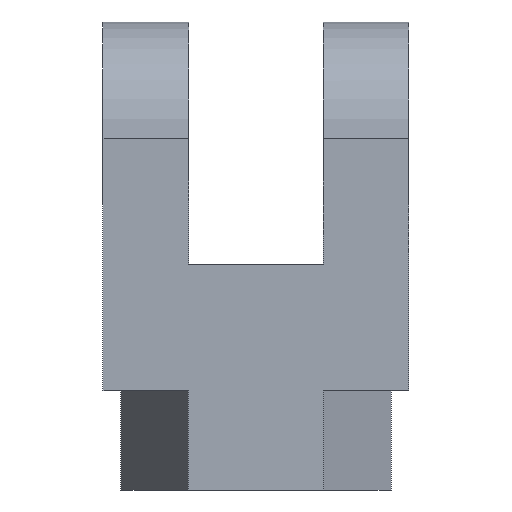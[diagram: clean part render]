
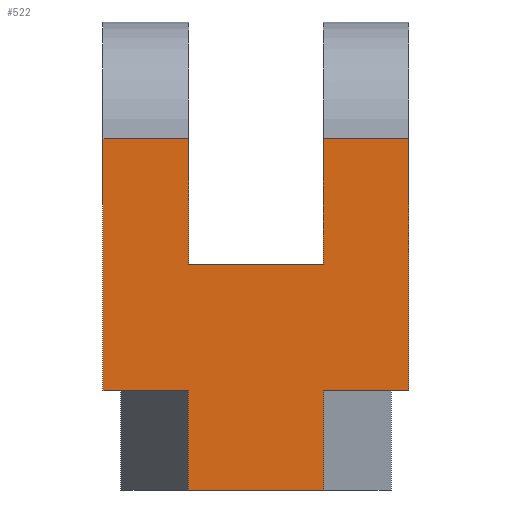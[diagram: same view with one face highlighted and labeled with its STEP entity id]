
A CAD part, left-side view. The second image highlights one B-rep face of the part: STEP entity #522.
In plain terms, the highlighted planar face has unit normal (-1, 0, 0).
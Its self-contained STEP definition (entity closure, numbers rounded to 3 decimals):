
#30=LINE('',#693,#70);
#43=LINE('',#718,#83);
#44=LINE('',#726,#84);
#45=LINE('',#730,#85);
#46=LINE('',#733,#86);
#47=LINE('',#734,#87);
#48=LINE('',#735,#88);
#49=LINE('',#737,#89);
#50=LINE('',#739,#90);
#51=LINE('',#741,#91);
#52=LINE('',#743,#92);
#53=LINE('',#744,#93);
#70=VECTOR('',#586,1000.);
#83=VECTOR('',#603,1000.);
#84=VECTOR('',#612,1000.);
#85=VECTOR('',#617,1000.);
#86=VECTOR('',#618,1000.);
#87=VECTOR('',#619,1000.);
#88=VECTOR('',#620,1000.);
#89=VECTOR('',#621,1000.);
#90=VECTOR('',#622,1000.);
#91=VECTOR('',#623,1000.);
#92=VECTOR('',#624,1000.);
#93=VECTOR('',#625,1000.);
#134=ORIENTED_EDGE('',*,*,#232,.T.);
#135=ORIENTED_EDGE('',*,*,#233,.T.);
#136=ORIENTED_EDGE('',*,*,#226,.F.);
#137=ORIENTED_EDGE('',*,*,#234,.T.);
#138=ORIENTED_EDGE('',*,*,#213,.T.);
#139=ORIENTED_EDGE('',*,*,#235,.F.);
#140=ORIENTED_EDGE('',*,*,#236,.F.);
#141=ORIENTED_EDGE('',*,*,#237,.T.);
#142=ORIENTED_EDGE('',*,*,#238,.T.);
#143=ORIENTED_EDGE('',*,*,#239,.F.);
#144=ORIENTED_EDGE('',*,*,#230,.F.);
#145=ORIENTED_EDGE('',*,*,#240,.T.);
#213=EDGE_CURVE('',#265,#264,#30,.T.);
#226=EDGE_CURVE('',#275,#276,#43,.T.);
#230=EDGE_CURVE('',#277,#278,#44,.T.);
#232=EDGE_CURVE('',#279,#280,#45,.T.);
#233=EDGE_CURVE('',#280,#276,#46,.T.);
#234=EDGE_CURVE('',#275,#265,#47,.T.);
#235=EDGE_CURVE('',#281,#264,#48,.T.);
#236=EDGE_CURVE('',#282,#281,#49,.T.);
#237=EDGE_CURVE('',#282,#283,#50,.T.);
#238=EDGE_CURVE('',#283,#284,#51,.T.);
#239=EDGE_CURVE('',#278,#284,#52,.T.);
#240=EDGE_CURVE('',#277,#279,#53,.T.);
#264=VERTEX_POINT('',#692);
#265=VERTEX_POINT('',#694);
#275=VERTEX_POINT('',#719);
#276=VERTEX_POINT('',#720);
#277=VERTEX_POINT('',#725);
#278=VERTEX_POINT('',#727);
#279=VERTEX_POINT('',#731);
#280=VERTEX_POINT('',#732);
#281=VERTEX_POINT('',#736);
#282=VERTEX_POINT('',#738);
#283=VERTEX_POINT('',#740);
#284=VERTEX_POINT('',#742);
#309=EDGE_LOOP('',(#134,#135,#136,#137,#138,#139,#140,#141,#142,#143,#144,
#145));
#337=FACE_BOUND('',#309,.T.);
#363=PLANE('',#552);
#522=ADVANCED_FACE('',(#337),#363,.T.);
#552=AXIS2_PLACEMENT_3D('',#729,#615,#616);
#586=DIRECTION('',(0.,-1.,0.));
#603=DIRECTION('',(0.,-1.,0.));
#612=DIRECTION('',(0.,-1.,0.));
#615=DIRECTION('',(-1.,0.,0.));
#616=DIRECTION('',(0.,0.,1.));
#617=DIRECTION('',(0.,1.,0.));
#618=DIRECTION('',(0.,0.,1.));
#619=DIRECTION('',(0.,0.,-1.));
#620=DIRECTION('',(0.,0.,1.));
#621=DIRECTION('',(0.,1.,0.));
#622=DIRECTION('',(0.,0.,1.));
#623=DIRECTION('',(0.,-1.,0.));
#624=DIRECTION('',(0.,0.,-1.));
#625=DIRECTION('',(0.,0.,-1.));
#692=CARTESIAN_POINT('',(-26.,15.011,-56.));
#693=CARTESIAN_POINT('',(-26.,31.,-56.));
#694=CARTESIAN_POINT('',(-26.,34.,-56.));
#718=CARTESIAN_POINT('',(-26.,24.5,0.));
#719=CARTESIAN_POINT('',(-26.,34.,0.));
#720=CARTESIAN_POINT('',(-26.,15.,0.));
#725=CARTESIAN_POINT('',(-26.,-15.,0.));
#726=CARTESIAN_POINT('',(-26.,-24.5,0.));
#727=CARTESIAN_POINT('',(-26.,-34.,0.));
#729=CARTESIAN_POINT('',(-26.,31.,-56.));
#730=CARTESIAN_POINT('',(-26.,31.,-28.));
#731=CARTESIAN_POINT('',(-26.,-15.,-28.));
#732=CARTESIAN_POINT('',(-26.,15.,-28.));
#733=CARTESIAN_POINT('',(-26.,15.,-56.));
#734=CARTESIAN_POINT('',(-26.,34.,-56.));
#735=CARTESIAN_POINT('',(-26.,15.011,-56.));
#736=CARTESIAN_POINT('',(-26.,15.011,-78.));
#737=CARTESIAN_POINT('',(-26.,-10.97,-78.));
#738=CARTESIAN_POINT('',(-26.,-15.011,-78.));
#739=CARTESIAN_POINT('',(-26.,-15.011,-75.));
#740=CARTESIAN_POINT('',(-26.,-15.011,-56.));
#741=CARTESIAN_POINT('',(-26.,31.,-56.));
#742=CARTESIAN_POINT('',(-26.,-34.,-56.));
#743=CARTESIAN_POINT('',(-26.,-34.,-56.));
#744=CARTESIAN_POINT('',(-26.,-15.,-56.));
